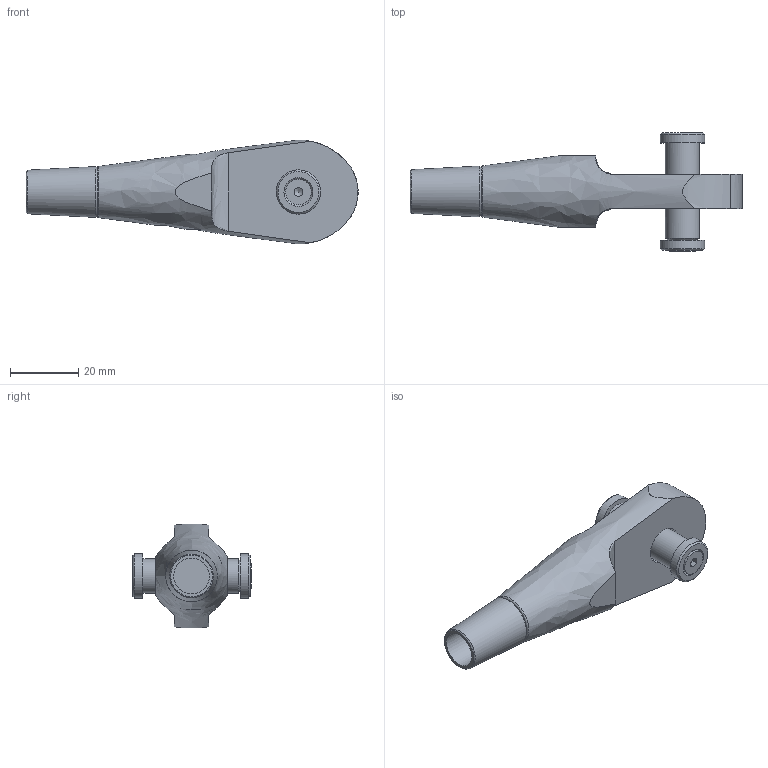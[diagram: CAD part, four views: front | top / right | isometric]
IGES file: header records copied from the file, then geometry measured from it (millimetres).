
Global section: file name: 520-010-OES; native system: Autodesk Inventor 2016; preprocessor: unknown; author: Administrator; date: 20200626.100752; units: centimetre
Bounding box: 97.49 x 34.78 x 30.54 mm (x, y, z)
Volume: 24991.1 mm3; surface area: 8806.8 mm2
Topology: 2 solids, 3 shells, 49 faces, 119 edges, 81 vertices
Faces by surface type: bspline 49
